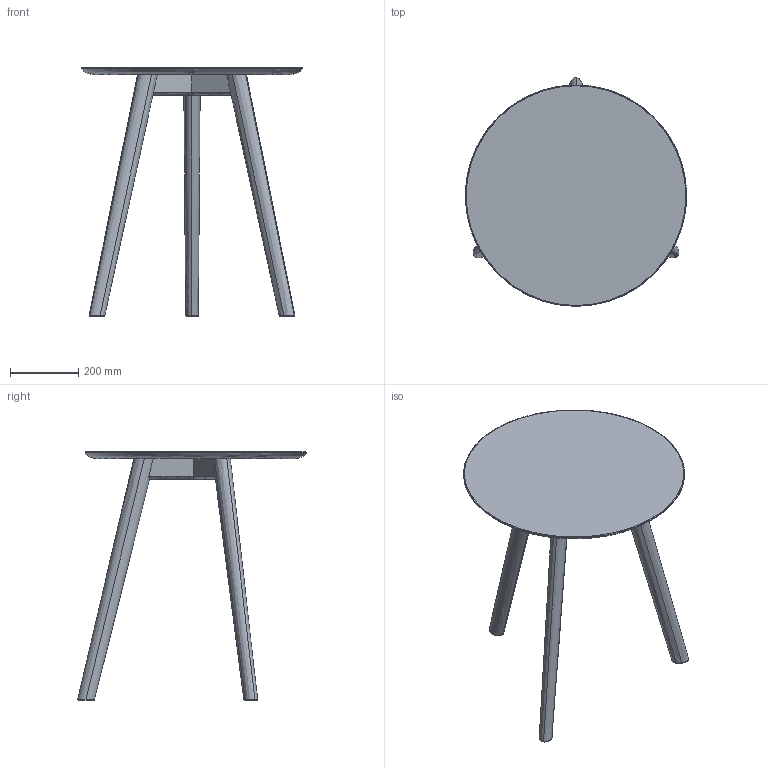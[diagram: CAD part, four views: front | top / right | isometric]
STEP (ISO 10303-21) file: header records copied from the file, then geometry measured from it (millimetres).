
FILE_DESCRIPTION(/* description */ (''),/* implementation_level */ '2;1');
FILE_NAME(/* name */ 'MC3_OS~2',/* time_stamp */ '2021-04-10T10:29:16+02:00',/* author */ (''),/* organization */ (''),/* preprocessor_version */ 'ST-DEVELOPER v16.5',/* originating_system */ '',/* authorisation */ '');
FILE_SCHEMA (('AUTOMOTIVE_DESIGN'));
Length unit declared in the file: millimetre
Products named in the file (1): Document
Bounding box: 648.18 x 670.55 x 728 mm (x, y, z)
Surface area: 1076285.9 mm2 (no closed solid volume)
Topology: 0 solids, 62 shells, 62 faces, 250 edges, 250 vertices
Faces by surface type: bspline 62
Entity records: 21274 total; most frequent: CARTESIAN_POINT 18964, B_SPLINE_CURVE_WITH_KNOTS 378, ORIENTED_EDGE 250, PCURVE 250, DEFINITIONAL_REPRESENTATION 250, SURFACE_CURVE 250, EDGE_CURVE 250, VERTEX_POINT 250
